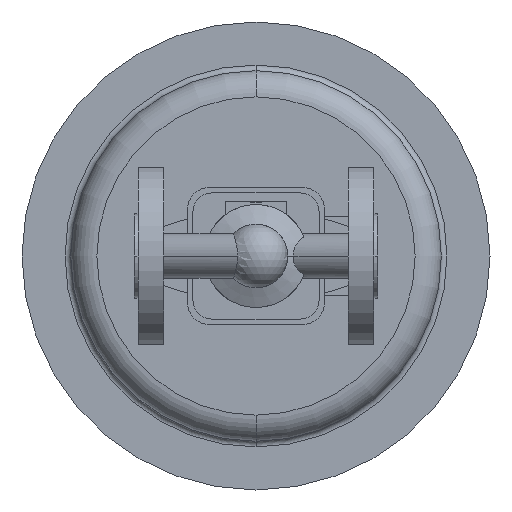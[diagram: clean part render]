
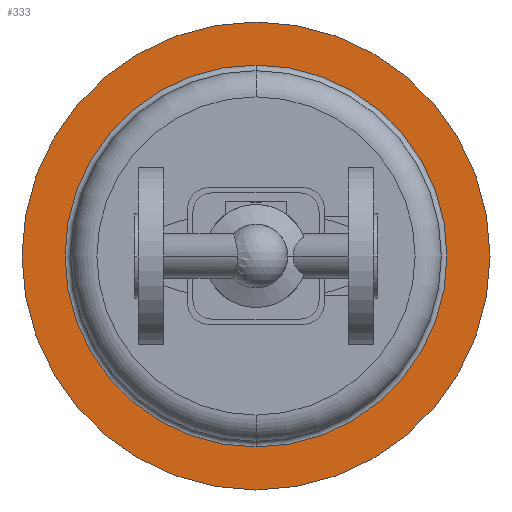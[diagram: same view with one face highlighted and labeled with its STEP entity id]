
A CAD part, front view. The second image highlights one B-rep face of the part: STEP entity #333.
In plain terms, the highlighted planar face has unit normal (0, -1, 0).
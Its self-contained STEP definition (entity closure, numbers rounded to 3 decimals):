
#333 = ADVANCED_FACE( '', ( #806, #807 ), #808, .T. );
#806 = FACE_OUTER_BOUND( '', #1288, .T. );
#807 = FACE_BOUND( '', #1289, .T. );
#808 = PLANE( '', #1290 );
#1288 = EDGE_LOOP( '', ( #2997, #2998 ) );
#1289 = EDGE_LOOP( '', ( #2999, #3000, #3001 ) );
#1290 = AXIS2_PLACEMENT_3D( '', #3002, #3003, #3004 );
#2997 = ORIENTED_EDGE( '', *, *, #3425, .F. );
#2998 = ORIENTED_EDGE( '', *, *, #3596, .F. );
#2999 = ORIENTED_EDGE( '', *, *, #3594, .T. );
#3000 = ORIENTED_EDGE( '', *, *, #3432, .T. );
#3001 = ORIENTED_EDGE( '', *, *, #3595, .T. );
#3002 = CARTESIAN_POINT( '', ( 178.5, 560., 0. ) );
#3003 = DIRECTION( '', ( 0., -1., 0. ) );
#3004 = DIRECTION( '', ( -1., 0., 0. ) );
#3425 = EDGE_CURVE( '', #4223, #4226, #4227, .T. );
#3432 = EDGE_CURVE( '', #4232, #4238, #4240, .T. );
#3594 = EDGE_CURVE( '', #4509, #4232, #4510, .T. );
#3595 = EDGE_CURVE( '', #4238, #4509, #4511, .T. );
#3596 = EDGE_CURVE( '', #4226, #4223, #4512, .T. );
#4223 = VERTEX_POINT( '', #5632 );
#4226 = VERTEX_POINT( '', #5636 );
#4227 = CIRCLE( '', #5637, 125. );
#4232 = VERTEX_POINT( '', #5643 );
#4238 = VERTEX_POINT( '', #5649 );
#4240 = CIRCLE( '', #5651, 102. );
#4509 = VERTEX_POINT( '', #5989 );
#4510 = CIRCLE( '', #5990, 102. );
#4511 = CIRCLE( '', #5991, 102. );
#4512 = CIRCLE( '', #5992, 125. );
#5632 = CARTESIAN_POINT( '', ( 190., 560., 0. ) );
#5636 = CARTESIAN_POINT( '', ( -60., 560., 0. ) );
#5637 = AXIS2_PLACEMENT_3D( '', #6695, #6696, #6697 );
#5643 = CARTESIAN_POINT( '', ( 65., 560., -102. ) );
#5649 = CARTESIAN_POINT( '', ( 65., 560., 102. ) );
#5651 = AXIS2_PLACEMENT_3D( '', #6714, #6715, #6716 );
#5989 = CARTESIAN_POINT( '', ( 167., 560., 0. ) );
#5990 = AXIS2_PLACEMENT_3D( '', #7062, #7063, #7064 );
#5991 = AXIS2_PLACEMENT_3D( '', #7065, #7066, #7067 );
#5992 = AXIS2_PLACEMENT_3D( '', #7068, #7069, #7070 );
#6695 = CARTESIAN_POINT( '', ( 65., 560., 0. ) );
#6696 = DIRECTION( '', ( 0., 1., 0. ) );
#6697 = DIRECTION( '', ( 1., 0., 0. ) );
#6714 = CARTESIAN_POINT( '', ( 65., 560., 0. ) );
#6715 = DIRECTION( '', ( 0., 1., 0. ) );
#6716 = DIRECTION( '', ( 1., 0., 0. ) );
#7062 = CARTESIAN_POINT( '', ( 65., 560., 0. ) );
#7063 = DIRECTION( '', ( 0., 1., 0. ) );
#7064 = DIRECTION( '', ( 1., 0., 0. ) );
#7065 = CARTESIAN_POINT( '', ( 65., 560., 0. ) );
#7066 = DIRECTION( '', ( 0., 1., 0. ) );
#7067 = DIRECTION( '', ( 1., 0., 0. ) );
#7068 = CARTESIAN_POINT( '', ( 65., 560., 0. ) );
#7069 = DIRECTION( '', ( 0., 1., 0. ) );
#7070 = DIRECTION( '', ( 1., 0., 0. ) );
